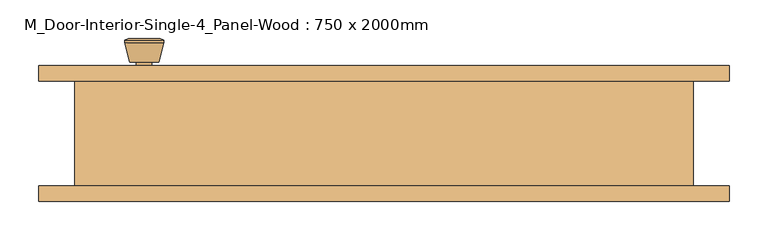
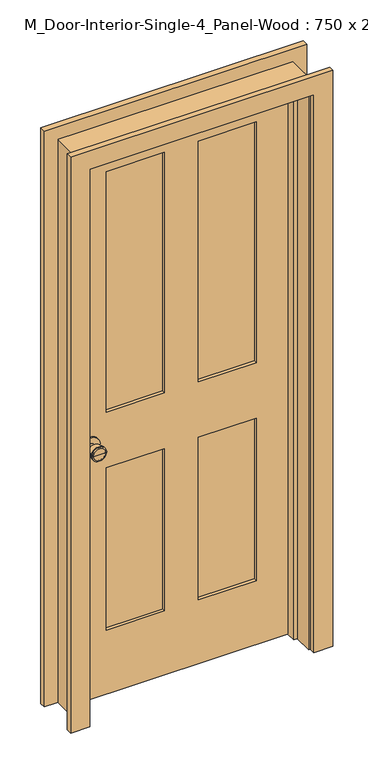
"""IFC4 building model written with IfcOpenShell, lengths in millimetres: door geometry, M_Door-Interior-Single-4_Panel-Wood : 750 x 2000mm."""

from ifc_helpers import new_model, si_unit, point, frame, frame_2d, origin, place, context, project, spatial, polyline, circle_curve, trimmed, segment, composite_curve, outline, extrude, faceted_brep, source, transform, mapped, element, save
from ifc_brep_helpers import plane_surface, cylinder_surface, revolved_surface, advanced_brep


def m_door_interior_single_4_panel_wood_750_x_2000mm_e4180e06(model_context):
    return source(origin(), model_context, "Body", "SolidModel", [
        advanced_brep(
        [(-310.0, 23.575, 914.4), (-300.0, 23.575, 914.4), (-320.0, 23.575, 914.4), (-289.5241324, -25.425, 914.4), (-310.0, -25.425, 914.4), (-330.4758676, -25.425, 914.4), (-285.0, -23.5971319, 914.4), (-335.0, -23.5971319, 914.4), (-285.0, -20.1334537, 914.4), (-335.0, -20.1334537, 914.4), (-291.363764, 4.575, 914.4), (-328.636236, 4.575, 914.4), (-300.0, 4.575, 914.4), (-320.0, 4.575, 914.4)],
        [
            (0, 1),
            (1, 2, circle_curve(frame((-310.0, 23.575, 914.4), z_axis=(0.0, 1.0, 0.0), x_axis=(-1.0, 0.0, 0.0)), 10.0)),
            (2, 0),
            (2, 1, circle_curve(frame((-310.0, 23.575, 914.4), z_axis=(0.0, 1.0, 0.0), x_axis=(-1.0, 0.0, 0.0)), 10.0)),
            (3, 4),
            (4, 5),
            (5, 3, circle_curve(frame((-310.0, -25.425, 914.4), z_axis=(0.0, -1.0, 0.0), x_axis=(-1.0, 0.0, 0.0)), 20.4758676)),
            (3, 5, circle_curve(frame((-310.0, -25.425, 914.4), z_axis=(0.0, -1.0, 0.0), x_axis=(-1.0, 0.0, 0.0)), 20.4758676)),
            (6, 3),
            (5, 7),
            (7, 6, circle_curve(frame((-310.0, -23.5971319, 914.4), z_axis=(0.0, -1.0, 0.0), x_axis=(-1.0, 0.0, 0.0)), 25.0)),
            (6, 7, circle_curve(frame((-310.0, -23.5971319, 914.4), z_axis=(0.0, -1.0, 0.0), x_axis=(-1.0, 0.0, 0.0)), 25.0)),
            (8, 6),
            (7, 9),
            (9, 8, circle_curve(frame((-310.0, -20.1334537, 914.4), z_axis=(0.0, -1.0, 0.0), x_axis=(-1.0, 0.0, 0.0)), 25.0)),
            (8, 9, circle_curve(frame((-310.0, -20.1334537, 914.4), z_axis=(0.0, -1.0, 0.0), x_axis=(-1.0, 0.0, 0.0)), 25.0)),
            (10, 8),
            (9, 11),
            (11, 10, circle_curve(frame((-310.0, 4.575, 914.4), z_axis=(0.0, -1.0, 0.0), x_axis=(-1.0, 0.0, 0.0)), 18.636236)),
            (10, 11, circle_curve(frame((-310.0, 4.575, 914.4), z_axis=(0.0, -1.0, 0.0), x_axis=(-1.0, 0.0, 0.0)), 18.636236)),
            (12, 10),
            (11, 13),
            (13, 12, circle_curve(frame((-310.0, 4.575, 914.4), z_axis=(0.0, -1.0, 0.0), x_axis=(-1.0, 0.0, 0.0)), 10.0)),
            (12, 13, circle_curve(frame((-310.0, 4.575, 914.4), z_axis=(0.0, -1.0, 0.0), x_axis=(-1.0, 0.0, 0.0)), 10.0)),
            (1, 12),
            (13, 2),
        ],
        [
            plane_surface(frame((-310.0, 23.575, 914.4), z_axis=(0.0, 1.0, 0.0), x_axis=(-1.0, 0.0, 0.0))),
            plane_surface(frame((-310.0, -25.425, 914.4), z_axis=(0.0, -1.0, 0.0), x_axis=(-1.0, 0.0, 0.0))),
            revolved_surface(polyline([(-330.4758676, -25.425, 914.4), (-335.0, -23.5971319, 914.4)]), (-310.0, 23.575, 914.4), (0.0, 1.0, 0.0)),
            cylinder_surface(frame((-310.0, 23.575, 914.4), z_axis=(0.0, 1.0, 0.0), x_axis=(-1.0, 0.0, 0.0)), 25.0),
            revolved_surface(polyline([(-335.0, -20.1334537, 914.4), (-328.636236, 4.575, 914.4)]), (-310.0, 23.575, 914.4), (0.0, 1.0, 0.0)),
            plane_surface(frame((-310.0, 4.575, 914.4), z_axis=(0.0, 1.0, 0.0), x_axis=(-1.0, 0.0, 0.0))),
            cylinder_surface(frame((-310.0, 23.575, 914.4), z_axis=(0.0, 1.0, 0.0), x_axis=(-1.0, 0.0, 0.0)), 10.0),
        ],
        [
            (0, [[1, 2, 3]]),
            (0, [[-3, 4, -1]]),
            (1, [[5, 6, 7]]),
            (1, [[-6, -5, 8]]),
            (2, [[9, -7, 10, 11]]),
            (2, [[-10, -8, -9, 12]]),
            (3, [[13, -11, 14, 15]]),
            (3, [[-14, -12, -13, 16]]),
            (4, [[17, -15, 18, 19]]),
            (4, [[-18, -16, -17, 20]]),
            (5, [[21, -19, 22, 23]]),
            (5, [[-22, -20, -21, 24]]),
            (6, [[25, -23, 26, -2]]),
            (6, [[-26, -24, -25, -4]]),
        ],
    ),
        extrude(outline(composite_curve([segment(trimmed(circle_curve(frame_2d((914.4, -310.0)), 30.0), [point((914.4, -340.0))], [point((914.4, -280.0))], False, "CARTESIAN"), True, "CONTINUOUS"), segment(trimmed(circle_curve(frame_2d((914.4, -310.0)), 30.0), [point((914.4, -280.0))], [point((914.4, -340.0))], False, "CARTESIAN"), True, "CONTINUOUS")], self_intersect=False)), frame((0.0, 23.575, 0.0), z_axis=(0.0, 1.0, 0.0), x_axis=(0.0, 0.0, 1.0)), (0.0, 0.0, 1.0), 6.0),
        advanced_brep(
        [(-310.0, 70.575, 914.4), (-320.0, 70.575, 914.4), (-300.0, 70.575, 914.4), (-289.5241324, 119.575, 914.4), (-330.4758676, 119.575, 914.4), (-310.0, 119.575, 914.4), (-285.0, 117.7471319, 914.4), (-335.0, 117.7471319, 914.4), (-285.0, 114.2834537, 914.4), (-335.0, 114.2834537, 914.4), (-291.363764, 89.575, 914.4), (-328.636236, 89.575, 914.4), (-300.0, 89.575, 914.4), (-320.0, 89.575, 914.4)],
        [
            (0, 1),
            (1, 2, circle_curve(frame((-310.0, 70.575, 914.4), z_axis=(0.0, -1.0, 0.0), x_axis=(-1.0, 0.0, 0.0)), 10.0)),
            (2, 0),
            (2, 1, circle_curve(frame((-310.0, 70.575, 914.4), z_axis=(0.0, -1.0, 0.0), x_axis=(-1.0, 0.0, 0.0)), 10.0)),
            (3, 4, circle_curve(frame((-310.0, 119.575, 914.4), z_axis=(0.0, 1.0, 0.0), x_axis=(-1.0, 0.0, 0.0)), 20.4758676)),
            (4, 5),
            (5, 3),
            (4, 3, circle_curve(frame((-310.0, 119.575, 914.4), z_axis=(0.0, 1.0, 0.0), x_axis=(-1.0, 0.0, 0.0)), 20.4758676)),
            (6, 7, circle_curve(frame((-310.0, 117.7471319, 914.4), z_axis=(0.0, 1.0, 0.0), x_axis=(-1.0, 0.0, 0.0)), 25.0)),
            (7, 4),
            (3, 6),
            (7, 6, circle_curve(frame((-310.0, 117.7471319, 914.4), z_axis=(0.0, 1.0, 0.0), x_axis=(-1.0, 0.0, 0.0)), 25.0)),
            (8, 9, circle_curve(frame((-310.0, 114.2834537, 914.4), z_axis=(0.0, 1.0, 0.0), x_axis=(-1.0, 0.0, 0.0)), 25.0)),
            (9, 7),
            (6, 8),
            (9, 8, circle_curve(frame((-310.0, 114.2834537, 914.4), z_axis=(0.0, 1.0, 0.0), x_axis=(-1.0, 0.0, 0.0)), 25.0)),
            (10, 11, circle_curve(frame((-310.0, 89.575, 914.4), z_axis=(0.0, 1.0, 0.0), x_axis=(-1.0, 0.0, 0.0)), 18.636236)),
            (11, 9),
            (8, 10),
            (11, 10, circle_curve(frame((-310.0, 89.575, 914.4), z_axis=(0.0, 1.0, 0.0), x_axis=(-1.0, 0.0, 0.0)), 18.636236)),
            (12, 13, circle_curve(frame((-310.0, 89.575, 914.4), z_axis=(0.0, 1.0, 0.0), x_axis=(-1.0, 0.0, 0.0)), 10.0)),
            (13, 11),
            (10, 12),
            (13, 12, circle_curve(frame((-310.0, 89.575, 914.4), z_axis=(0.0, 1.0, 0.0), x_axis=(-1.0, 0.0, 0.0)), 10.0)),
            (1, 13),
            (12, 2),
        ],
        [
            plane_surface(frame((-310.0, 70.575, 914.4), z_axis=(0.0, -1.0, 0.0), x_axis=(-1.0, 0.0, 0.0))),
            plane_surface(frame((-310.0, 119.575, 914.4), z_axis=(0.0, 1.0, 0.0), x_axis=(-1.0, 0.0, 0.0))),
            revolved_surface(polyline([(-330.4758676, 119.575, 914.4), (-335.0, 117.7471319, 914.4)]), (-310.0, 70.575, 914.4), (0.0, -1.0, 0.0)),
            cylinder_surface(frame((-310.0, 70.575, 914.4), z_axis=(0.0, -1.0, 0.0), x_axis=(-1.0, 0.0, 0.0)), 25.0),
            revolved_surface(polyline([(-335.0, 114.2834537, 914.4), (-328.636236, 89.575, 914.4)]), (-310.0, 70.575, 914.4), (0.0, -1.0, 0.0)),
            plane_surface(frame((-310.0, 89.575, 914.4), z_axis=(0.0, -1.0, 0.0), x_axis=(-1.0, 0.0, 0.0))),
            cylinder_surface(frame((-310.0, 70.575, 914.4), z_axis=(0.0, -1.0, 0.0), x_axis=(-1.0, 0.0, 0.0)), 10.0),
        ],
        [
            (0, [[1, 2, 3]]),
            (0, [[-3, 4, -1]]),
            (1, [[5, 6, 7]]),
            (1, [[8, -7, -6]]),
            (2, [[9, 10, -5, 11]]),
            (2, [[12, -11, -8, -10]]),
            (3, [[13, 14, -9, 15]]),
            (3, [[16, -15, -12, -14]]),
            (4, [[17, 18, -13, 19]]),
            (4, [[20, -19, -16, -18]]),
            (5, [[21, 22, -17, 23]]),
            (5, [[24, -23, -20, -22]]),
            (6, [[-2, 25, -21, 26]]),
            (6, [[-4, -26, -24, -25]]),
        ],
    ),
        extrude(outline(composite_curve([segment(trimmed(circle_curve(frame_2d((914.4, -310.0)), 30.0), [point((914.4, -340.0))], [point((914.4, -280.0))], False, "CARTESIAN"), True, "CONTINUOUS"), segment(trimmed(circle_curve(frame_2d((914.4, -310.0)), 30.0), [point((914.4, -280.0))], [point((914.4, -340.0))], False, "CARTESIAN"), True, "CONTINUOUS")], self_intersect=False)), frame((0.0, 64.575, 0.0), z_axis=(0.0, 1.0, 0.0), x_axis=(0.0, 0.0, 1.0)), (0.0, 0.0, 1.0), 6.0),
        extrude(outline(polyline([(255.0, 41.2416667), (57.5, 41.2416667), (57.5, 52.9083333), (255.0, 52.9083333), (255.0, 41.2416667)])), frame((0.0, 0.0, 1014.4), z_axis=(0.0, 0.0, 1.0), x_axis=(1.0, 0.0, 0.0)), (0.0, 0.0, 1.0), 865.6),
        extrude(outline(polyline([(-57.5, 41.2416667), (-255.0, 41.2416667), (-255.0, 52.9083333), (-57.5, 52.9083333), (-57.5, 41.2416667)])), frame((0.0, 0.0, 1014.4), z_axis=(0.0, 0.0, 1.0), x_axis=(1.0, 0.0, 0.0)), (0.0, 0.0, 1.0), 865.6),
        extrude(outline(polyline([(255.0, 41.2416667), (57.5, 41.2416667), (57.5, 52.9083333), (255.0, 52.9083333), (255.0, 41.2416667)])), frame((0.0, 0.0, 230.0), z_axis=(0.0, 0.0, 1.0), x_axis=(1.0, 0.0, 0.0)), (0.0, 0.0, 1.0), 584.4),
        extrude(outline(polyline([(-57.5, 41.2416667), (-255.0, 41.2416667), (-255.0, 52.9083333), (-57.5, 52.9083333), (-57.5, 41.2416667)])), frame((0.0, 0.0, 230.0), z_axis=(0.0, 0.0, 1.0), x_axis=(1.0, 0.0, 0.0)), (0.0, 0.0, 1.0), 584.4),
        extrude(outline(polyline([(2000.0, -375.0), (0.0, -375.0), (0.0, 375.0), (2000.0, 375.0), (2000.0, -375.0)]), holes=[polyline([(1880.0, 57.5), (1880.0, 255.0), (1014.4, 255.0), (1014.4, 57.5), (1880.0, 57.5)]), polyline([(1014.4, -57.5), (1014.4, -255.0), (1880.0, -255.0), (1880.0, -57.5), (1014.4, -57.5)]), polyline([(814.4, 57.5), (814.4, 255.0), (230.0, 255.0), (230.0, 57.5), (814.4, 57.5)]), polyline([(230.0, -57.5), (230.0, -255.0), (814.4, -255.0), (814.4, -57.5), (230.0, -57.5)])]), frame((0.0, 29.575, 0.0), z_axis=(0.0, 1.0, 0.0), x_axis=(0.0, 0.0, 1.0)), (0.0, 0.0, 1.0), 35.0),
        faceted_brep([(400.0, 64.575, 0.0), (400.0, -70.925, 0.0), (375.0, -70.925, 0.0), (375.0, -5.35, 0.0), (362.3, -5.35, 0.0), (362.3, 29.575, 0.0), (375.0, 29.575, 0.0), (375.0, 64.575, 0.0), (400.0, 64.575, 2025.0), (400.0, -70.925, 2025.0), (-400.0, -70.925, 2025.0), (-400.0, -70.925, 0.0), (-375.0, -70.925, 0.0), (-375.0, -70.925, 2000.0), (375.0, -70.925, 2000.0), (375.0, -5.35, 2000.0), (-375.0, -5.35, 2000.0), (-375.0, -5.35, 0.0), (-362.3, -5.35, 0.0), (-362.3, -5.35, 1987.3), (362.3, -5.35, 1987.3), (362.3, 29.575, 1987.3), (-362.3, 29.575, 1987.3), (-362.3, 29.575, 0.0), (-375.0, 29.575, 0.0), (-375.0, 29.575, 2000.0), (375.0, 29.575, 2000.0), (375.0, 64.575, 2000.0), (-375.0, 64.575, 2000.0), (-375.0, 64.575, 0.0), (-400.0, 64.575, 0.0), (-400.0, 64.575, 2025.0)], [[[0, 1, 2, 3, 4, 5, 6, 7]], [[1, 0, 8, 9]], [[2, 1, 9, 10, 11, 12, 13, 14]], [[3, 2, 14, 15]], [[4, 3, 15, 16, 17, 18, 19, 20]], [[5, 4, 20, 21]], [[6, 5, 21, 22, 23, 24, 25, 26]], [[7, 6, 26, 27]], [[0, 7, 27, 28, 29, 30, 31, 8]], [[9, 8, 31, 10]], [[15, 14, 13, 16]], [[21, 20, 19, 22]], [[27, 26, 25, 28]], [[30, 29, 24, 23, 18, 17, 12, 11]], [[10, 31, 30, 11]], [[16, 13, 12, 17]], [[22, 19, 18, 23]], [[28, 25, 24, 29]]]),
        extrude(outline(polyline([(0.0, 381.35), (0.0, 446.35), (2071.35, 446.35), (2071.35, -446.35), (0.0, -446.35), (0.0, -381.35), (2006.35, -381.35), (2006.35, 381.35), (0.0, 381.35)])), frame((0.0, -90.925, 0.0), z_axis=(0.0, 1.0, 0.0), x_axis=(0.0, 0.0, 1.0)), (0.0, 0.0, 1.0), 20.0),
        extrude(outline(polyline([(0.0, 381.35), (0.0, 446.35), (2071.35, 446.35), (2071.35, -446.35), (0.0, -446.35), (0.0, -381.35), (2006.35, -381.35), (2006.35, 381.35), (0.0, 381.35)])), frame((0.0, 64.575, 0.0), z_axis=(0.0, 1.0, 0.0), x_axis=(0.0, 0.0, 1.0)), (0.0, 0.0, 1.0), 20.0),
    ])


if __name__ == "__main__":
    model = new_model("IFC4")
    model_context = context("Model", 3, world=origin())
    ifc_project = project(units=[si_unit("LENGTHUNIT", "METRE", prefix="MILLI")], contexts=[model_context])
    site = spatial("IfcSite", under=ifc_project)
    building = spatial("IfcBuilding", under=site)
    placement = place(None, origin())
    m_door_interior_single_4_panel_wood_750_x_2000mm_shape = m_door_interior_single_4_panel_wood_750_x_2000mm_e4180e06(model_context)
    element("IfcDoor", 1, ObjectType="M_Door-Interior-Single-4_Panel-Wood : 750 x 2000mm", at=placement, inside=building, context=model_context, shape_type="MappedRepresentation", body=[
        mapped(m_door_interior_single_4_panel_wood_750_x_2000mm_shape, transform((0.0, 0.0, 0.0), x_axis=(1.0, 0.0, 0.0), y_axis=(0.0, 1.0, 0.0), z_axis=(0.0, 0.0, 1.0))),
    ])
    save(model, "model.ifc")
